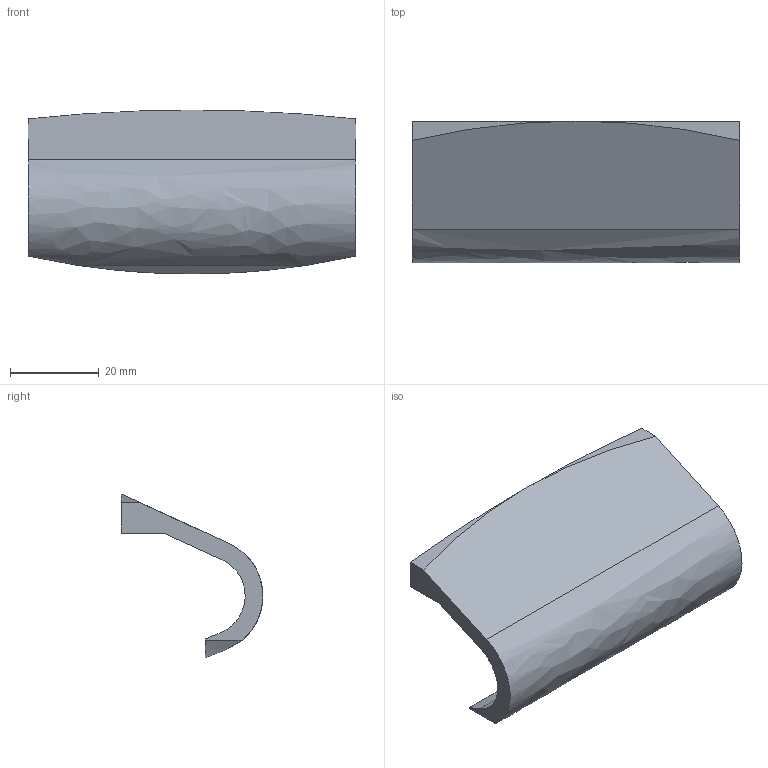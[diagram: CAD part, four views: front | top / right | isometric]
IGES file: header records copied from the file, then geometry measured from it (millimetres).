
Start section: Data from Parasolid IGES Translator 15.0.47, Copyright(c) 2006 Siemens P LM Software. All Rights Reserved.
Global section: file name: 9065629.igs; native system:  By UGS Corp.; preprocessor: XPlus GENERIC/IGES 3.0; author: Noname; organization: Noname; date: 20140122.170350; units: millimetre
Bounding box: 74 x 32 x 37 mm (x, y, z)
Surface area: 9654.6 mm2 (no closed solid volume)
Topology: 0 solids, 0 shells, 19 faces, 88 edges, 86 vertices
Faces by surface type: extrusion 11, revolution 8
